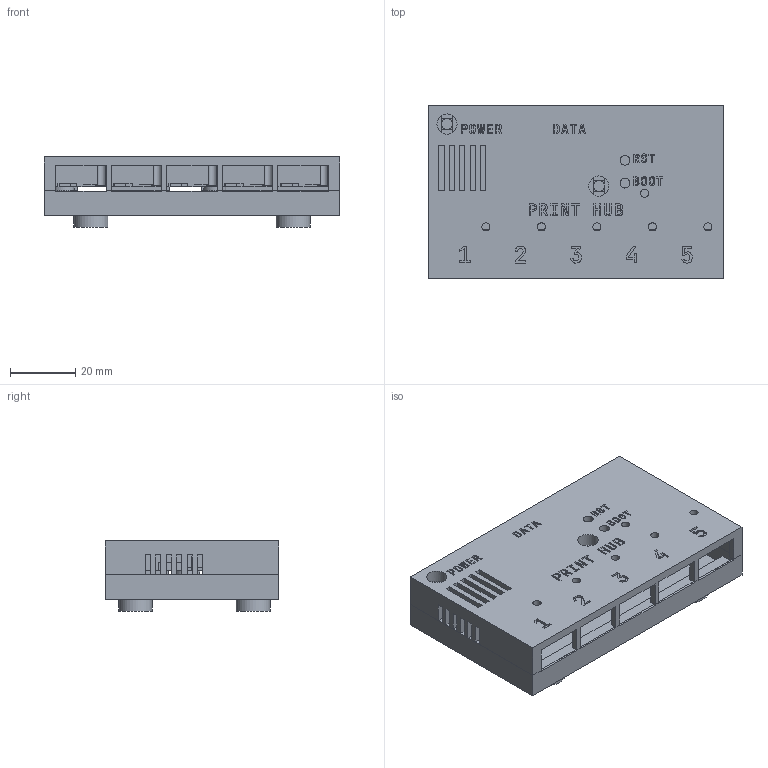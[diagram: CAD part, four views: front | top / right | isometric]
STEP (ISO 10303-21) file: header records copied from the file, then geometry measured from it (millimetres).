
FILE_DESCRIPTION(('Open CASCADE Model'),'2;1');
FILE_NAME('printhub-enclosure','2026-10-17T00:00:00',('Author'),( 'Open CASCADE'),'Open CASCADE STEP processor 8.0','build123d', 'Unknown');
FILE_SCHEMA(('AUTOMOTIVE_DESIGN { 1 0 10303 214 1 1 1 1 }'));
Length unit declared in the file: millimetre
Products named in the file (7): printhub-enclosure; printhub-base; printhub-lid; printhub-foot-1; printhub-foot-2; printhub-foot-3; printhub-foot-4
Assembly tree (6 placements, depth 2):
  printhub-enclosure
    printhub-base
    printhub-lid
    printhub-foot-1
    printhub-foot-2
    printhub-foot-3
    printhub-foot-4
Bounding box: 90.6 x 53.2 x 21.5 mm (x, y, z)
Volume: 54647 mm3; surface area: 30983.8 mm2
Topology: 6 solids, 6 shells, 1293 faces, 3668 edges, 2440 vertices
Faces by surface type: plane 1267, cylinder 26
Full cylindrical faces by diameter (mm): 2.5 x6, 3 x2, 3.4 x2, 4 x2, 6.2 x2, 6.8 x2, 7 x2, 10.4 x4, 10.6 x4
Entity records: 86008 total; most frequent: CARTESIAN_POINT 17704, DIRECTION 10726, LINE 7880, VECTOR 7880, ORIENTED_EDGE 7336, PCURVE 7336, DEFINITIONAL_REPRESENTATION 7336, EDGE_CURVE 3668
